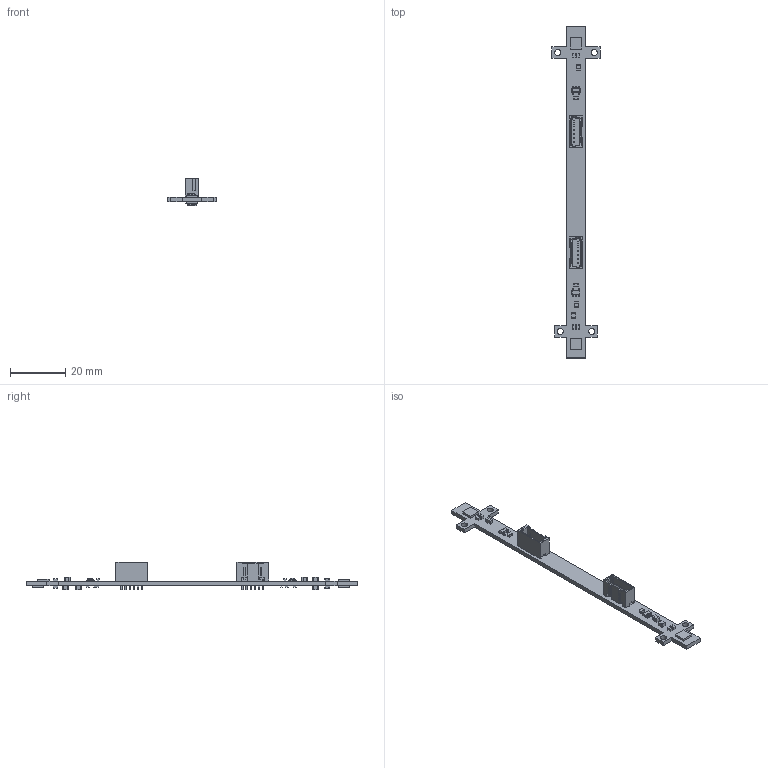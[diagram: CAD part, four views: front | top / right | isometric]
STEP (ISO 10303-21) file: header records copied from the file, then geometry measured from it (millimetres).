
FILE_DESCRIPTION(('Open CASCADE Model'),'2;1');
FILE_NAME('Open CASCADE Shape Model','2017-05-04T09:07:56',('Author'),( 'Open CASCADE'),'Open CASCADE STEP processor 6.8','Open CASCADE 6.8' ,'Unknown');
FILE_SCHEMA(('AUTOMOTIVE_DESIGN { 1 0 10303 214 1 1 1 1 }'));
Length unit declared in the file: millimetre
Products named in the file (60): PCB; Board; R6; 750800360; Extruded; 750800496; R12; 750800088; 750800224; U3; DBV0005A; DBV0005A_2; DBV0005A_1; U6; U2; 750799136; U5; U1; U4; R11; R4; R10; R3; 750799272; 750799408; R9; R2; R8; R1; R7; C5; 750799816; 750799952; C10; C4; 750799544; 750799680; C9; C3; C8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
Assembly tree (124 placements, depth 4):
  PCB
    Board
    R6
      750800360  x2
        Extruded
      750800496
        Extruded
    R12
      750800088  x2
        Extruded
      750800224
        Extruded
    U3
      DBV0005A
        DBV0005A_2
        DBV0005A_1  x5
    U6
      DBV0005A
        DBV0005A_2
        DBV0005A_1  x5
    U2
      750799136
        Extruded
    U5
      750799136
        Extruded
    U1
      750799136
        Extruded
    U4
      750799136
        Extruded
    R11
      750800088  x2
        Extruded
      750800224
        Extruded
    R4
      750800088  x2
        Extruded
      750800224
        Extruded
    R10
      750800088  x2
        Extruded
      750800224
        Extruded
    R3
      750799272  x2
        Extruded
      750799408
        Extruded
    R9
      750799272  x2
        Extruded
      750799408
        Extruded
    R2
      750799272  x2
        Extruded
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Bounding box: 17.38 x 120 x 9.94 mm (x, y, z)
Volume: 1915.4 mm3; surface area: 4097.1 mm2
Topology: 97 solids, 97 shells, 1184 faces, 2866 edges, 1868 vertices
Faces by surface type: plane 976, cylinder 176, sphere 20, cone 12
Full cylindrical faces by diameter (mm): 0.9 x14, 2.26 x4
Entity records: 35669 total; most frequent: CARTESIAN_POINT 13163, DIRECTION 3955, LINE 2534, VECTOR 2534, ORIENTED_EDGE 2112, PCURVE 2112, DEFINITIONAL_REPRESENTATION 2112, EDGE_CURVE 1056
